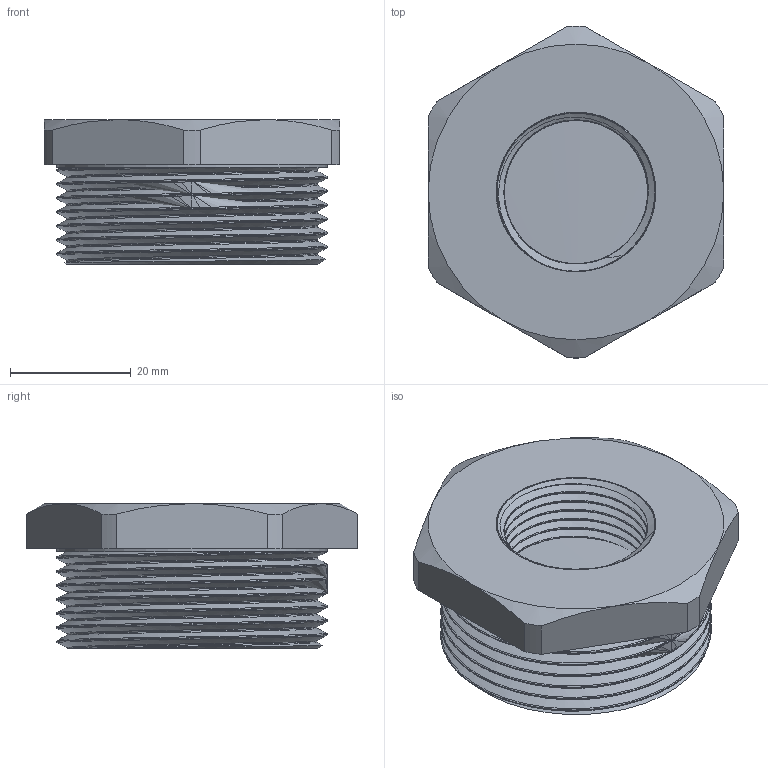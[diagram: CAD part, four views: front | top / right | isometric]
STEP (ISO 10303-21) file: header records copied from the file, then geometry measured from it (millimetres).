
FILE_DESCRIPTION(/* description */ (''),/* implementation_level */ '2;1');
FILE_NAME(/* name */ 'C:\Users\Doom\Desktop\Фадотех\Резьба\PF10 18.03.2020\PF10 18.03.2020.stp',/* time_stamp */ '2022-01-15T23:47:15+02:00',/* author */ ('Doom'),/* organization */ (''),/* preprocessor_version */ 'ST-DEVELOPER v18',/* originating_system */ 'Autodesk Inventor 2020',/* authorisation */ '');
FILE_SCHEMA (('AUTOMOTIVE_DESIGN { 1 0 10303 214 3 1 1 }'));
Length unit declared in the file: millimetre
Products named in the file (1): PF07 18.03.2020
Bounding box: 49 x 54.99 x 24 mm (x, y, z)
Volume: 33016.5 mm3; surface area: 20881.8 mm2
Topology: 3 solids, 3 shells, 70 faces, 185 edges, 122 vertices
Faces by surface type: cylinder 35, plane 14, bspline 12, cone 9
Full cylindrical faces by diameter (mm): 23.75 x13, 26.44 x2, 41.416 x2, 44.84 x8
Entity records: 13028 total; most frequent: CARTESIAN_POINT 11441, ORIENTED_EDGE 366, DIRECTION 251, EDGE_CURVE 183, VERTEX_POINT 121, AXIS2_PLACEMENT_3D 103, B_SPLINE_CURVE_WITH_KNOTS 82, EDGE_LOOP 78
